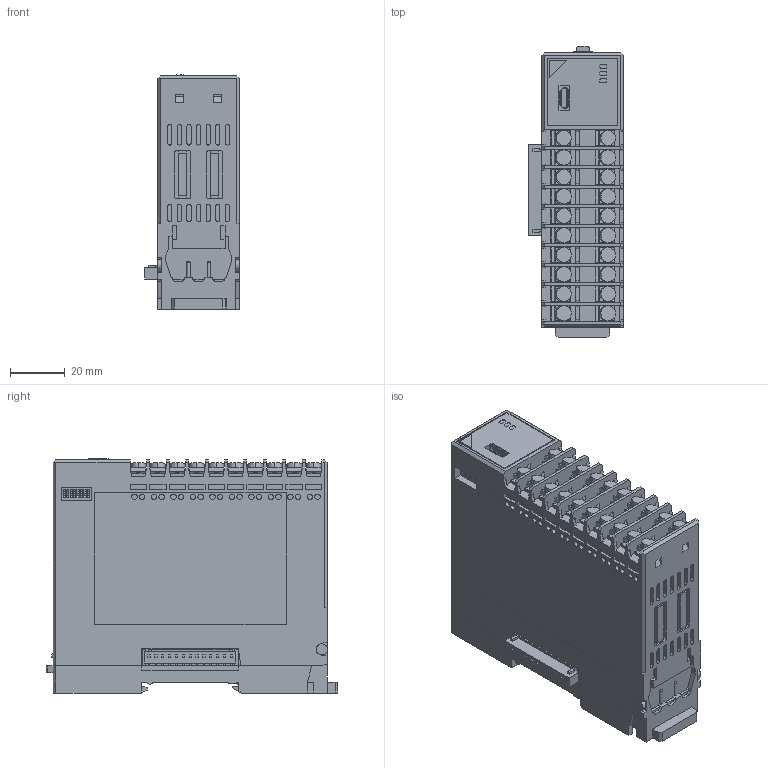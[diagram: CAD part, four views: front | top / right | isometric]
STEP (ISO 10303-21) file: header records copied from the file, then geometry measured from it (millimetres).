
FILE_DESCRIPTION (( 'STEP AP203' ), '1' );
FILE_NAME ('QAM2-4T_260721.STEP', '2026-07-22T01:01:16', ( '' ), ( '' ), 'SwSTEP 2.0', 'SolidWorks 2025', '' );
FILE_SCHEMA (( 'CONFIG_CONTROL_DESIGN' ));
Length unit declared in the file: millimetre
Products named in the file (1): QAM2-4T_260721
Bounding box: 34.6 x 106.3 x 85.46 mm (x, y, z)
Volume: 234311.7 mm3; surface area: 42105.5 mm2
Topology: 1 solids, 1 shells, 1854 faces, 4713 edges, 3076 vertices
Faces by surface type: plane 1495, cylinder 357, torus 2
Entity records: 55190 total; most frequent: CARTESIAN_POINT 9740, ORIENTED_EDGE 9426, DIRECTION 9091, EDGE_CURVE 4713, LINE 3981, VECTOR 3981, VERTEX_POINT 3076, AXIS2_PLACEMENT_3D 2555
